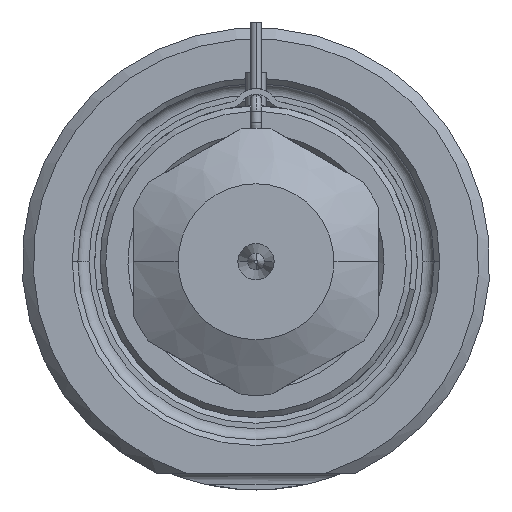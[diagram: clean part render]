
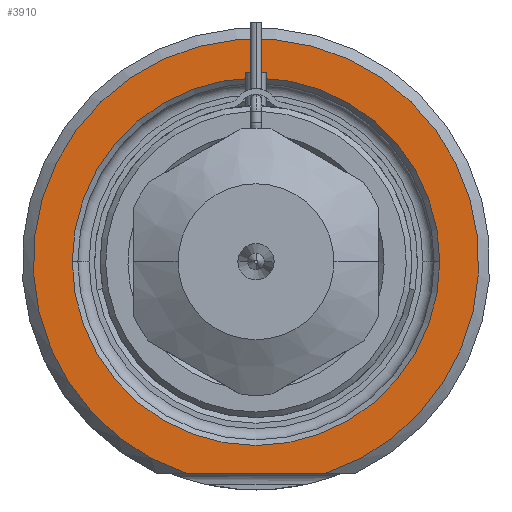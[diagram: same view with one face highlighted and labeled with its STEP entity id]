
A CAD part, front view. The second image highlights one B-rep face of the part: STEP entity #3910.
In plain terms, the highlighted planar face has unit normal (0, -1, 0).
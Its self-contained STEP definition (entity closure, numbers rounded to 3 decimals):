
#1=DIRECTION('',(1.,0.,0.));
#2=VECTOR('',#1,12.49);
#3=CARTESIAN_POINT('',(-6.245,0.,-19.));
#4=LINE('',#3,#2);
#5=CARTESIAN_POINT('',(0.,0.,0.));
#6=DIRECTION('',(0.,1.,0.));
#7=DIRECTION('',(-1.,0.,0.));
#8=AXIS2_PLACEMENT_3D('',#5,#6,#7);
#10=CARTESIAN_POINT('',(0.,0.,0.));
#11=DIRECTION('',(0.,1.,0.));
#12=DIRECTION('',(1.,0.,0.));
#13=AXIS2_PLACEMENT_3D('',#10,#11,#12);
#119=CARTESIAN_POINT('',(0.,0.,0.));
#120=DIRECTION('',(0.,-1.,0.));
#121=DIRECTION('',(0.312,0.,-0.95));
#122=AXIS2_PLACEMENT_3D('',#119,#120,#121);
#3278=CARTESIAN_POINT('',(-16.5,0.,0.));
#3279=CARTESIAN_POINT('',(16.5,0.,0.));
#3280=VERTEX_POINT('',#3278);
#3281=VERTEX_POINT('',#3279);
#3318=CARTESIAN_POINT('',(-6.245,0.,-19.));
#3319=CARTESIAN_POINT('',(6.245,0.,-19.));
#3320=VERTEX_POINT('',#3318);
#3321=VERTEX_POINT('',#3319);
#3893=CARTESIAN_POINT('',(0.,0.,0.));
#3894=DIRECTION('',(0.,-1.,0.));
#3895=DIRECTION('',(1.,0.,0.));
#3896=AXIS2_PLACEMENT_3D('',#3893,#3894,#3895);
#3897=PLANE('',#3896);
#3899=ORIENTED_EDGE('',*,*,#3898,.F.);
#3901=ORIENTED_EDGE('',*,*,#3900,.F.);
#3902=EDGE_LOOP('',(#3899,#3901));
#3903=FACE_OUTER_BOUND('',#3902,.F.);
#3905=ORIENTED_EDGE('',*,*,#3904,.F.);
#3907=ORIENTED_EDGE('',*,*,#3906,.F.);
#3908=EDGE_LOOP('',(#3905,#3907));
#3909=FACE_BOUND('',#3908,.F.);
#3910=ADVANCED_FACE('',(#3903,#3909),#3897,.T.);
#9=CIRCLE('',#8,16.5);
#14=CIRCLE('',#13,16.5);
#123=CIRCLE('',#122,20.);
#3898=EDGE_CURVE('',#3320,#3321,#4,.T.);
#3900=EDGE_CURVE('',#3321,#3320,#123,.T.);
#3904=EDGE_CURVE('',#3280,#3281,#9,.T.);
#3906=EDGE_CURVE('',#3281,#3280,#14,.T.);
